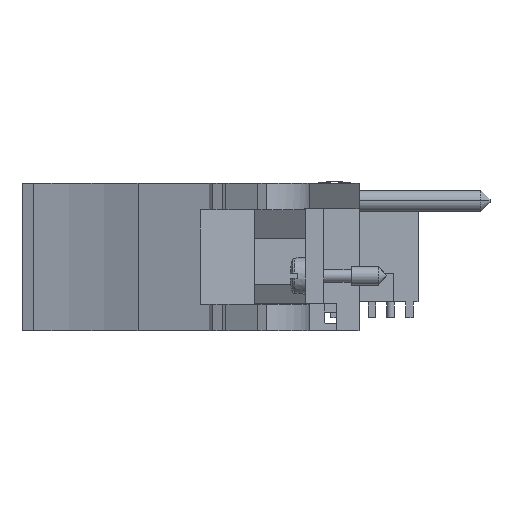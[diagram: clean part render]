
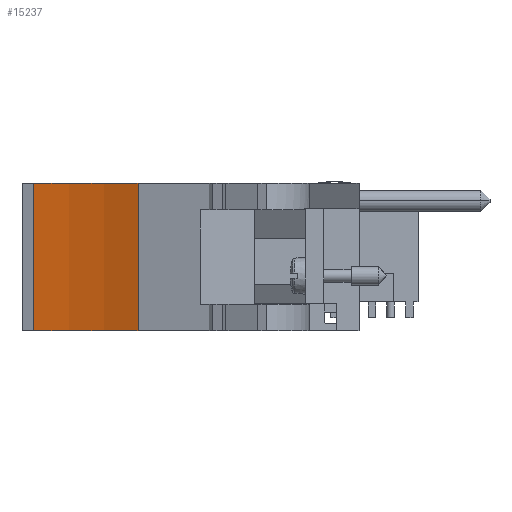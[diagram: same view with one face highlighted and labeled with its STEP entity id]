
A CAD part, front view. The second image highlights one B-rep face of the part: STEP entity #15237.
In plain terms, the highlighted cylindrical face has radius 51.46 mm (diameter 102.919 mm), a partial arc.
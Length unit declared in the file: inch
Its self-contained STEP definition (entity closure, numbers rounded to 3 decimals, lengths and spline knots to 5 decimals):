
#389=DIRECTION('',(0.,0.,1.));
#390=VECTOR('',#389,0.788);
#391=CARTESIAN_POINT('',(-1.09548,-4.1262,-0.093));
#392=LINE('',#391,#390);
#450=CARTESIAN_POINT('',(-1.97678,-5.95044,-0.093));
#451=DIRECTION('',(0.,0.,1.));
#452=DIRECTION('',(0.435,0.9,0.));
#453=AXIS2_PLACEMENT_3D('',#450,#451,#452);
#841=CARTESIAN_POINT('',(-1.97678,-5.95044,0.695));
#842=DIRECTION('',(0.,0.,1.));
#843=DIRECTION('',(0.435,0.9,0.));
#844=AXIS2_PLACEMENT_3D('',#841,#842,#843);
#1157=DIRECTION('',(0.,0.,1.));
#1158=VECTOR('',#1157,0.788);
#1159=CARTESIAN_POINT('',(-1.65345,-3.95044,-0.093));
#1160=LINE('',#1159,#1158);
#14132=CARTESIAN_POINT('',(-1.09548,-4.1262,-0.093));
#14133=CARTESIAN_POINT('',(-1.65345,-3.95044,-0.093));
#14134=VERTEX_POINT('',#14132);
#14135=VERTEX_POINT('',#14133);
#14136=CARTESIAN_POINT('',(-1.09548,-4.1262,0.695));
#14137=CARTESIAN_POINT('',(-1.65345,-3.95044,0.695));
#14138=VERTEX_POINT('',#14136);
#14139=VERTEX_POINT('',#14137);
#15223=CARTESIAN_POINT('',(-1.97678,-5.95044,0.695));
#15224=DIRECTION('',(0.,0.,1.));
#15225=DIRECTION('',(0.,1.,0.));
#15226=AXIS2_PLACEMENT_3D('',#15223,#15224,#15225);
#15227=CYLINDRICAL_SURFACE('',#15226,2.02597);
#15229=ORIENTED_EDGE('',*,*,#15228,.T.);
#15231=ORIENTED_EDGE('',*,*,#15230,.T.);
#15233=ORIENTED_EDGE('',*,*,#15232,.F.);
#15234=ORIENTED_EDGE('',*,*,#15206,.F.);
#15235=EDGE_LOOP('',(#15229,#15231,#15233,#15234));
#15236=FACE_OUTER_BOUND('',#15235,.F.);
#15237=ADVANCED_FACE('',(#15236),#15227,.F.);
#454=CIRCLE('',#453,2.02597);
#845=CIRCLE('',#844,2.02597);
#15206=EDGE_CURVE('',#14134,#14138,#392,.T.);
#15228=EDGE_CURVE('',#14134,#14135,#454,.T.);
#15230=EDGE_CURVE('',#14135,#14139,#1160,.T.);
#15232=EDGE_CURVE('',#14138,#14139,#845,.T.);
